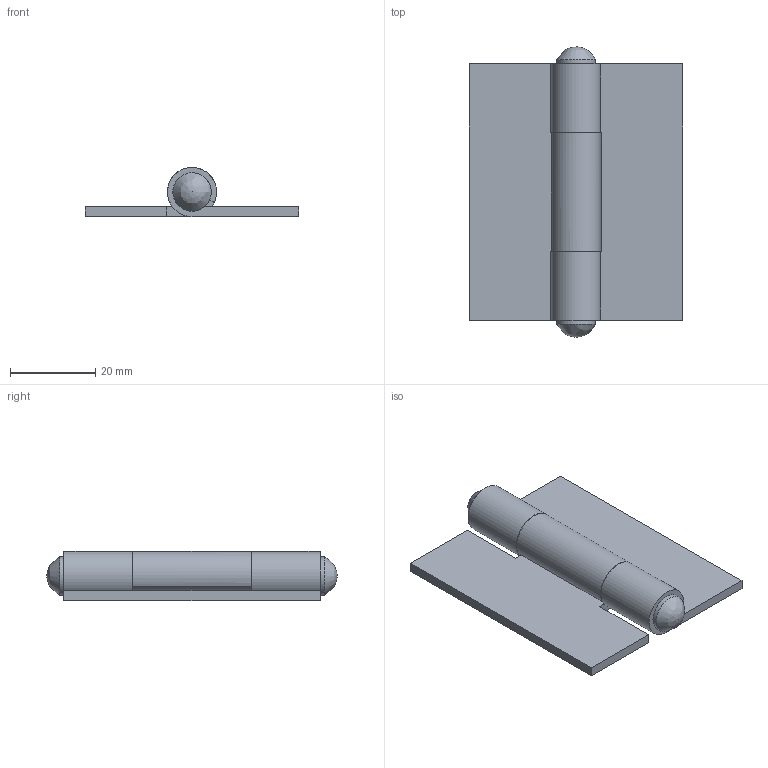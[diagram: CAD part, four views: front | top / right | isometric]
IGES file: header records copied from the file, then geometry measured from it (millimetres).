
Global section: file name: DR_HTN6050-23; native system: Autodesk Inventor 2015; preprocessor: unknown; author: Administrator; date: 20170823.085540; units: millimetre
Bounding box: 50 x 68 x 11.5 mm (x, y, z)
Volume: 11922.8 mm3; surface area: 10844.2 mm2
Topology: 3 solids, 3 shells, 33 faces, 87 edges, 60 vertices
Faces by surface type: bspline 33
